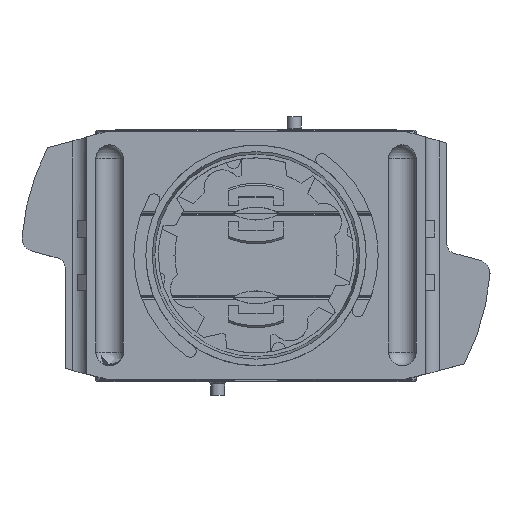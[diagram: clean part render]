
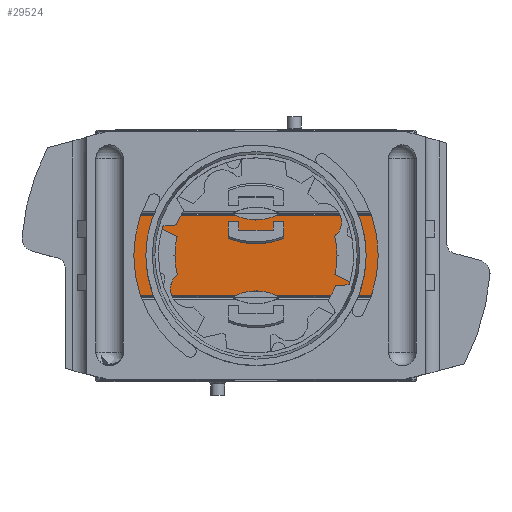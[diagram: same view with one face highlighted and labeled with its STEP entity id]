
A CAD part, top view. The second image highlights one B-rep face of the part: STEP entity #29524.
In plain terms, the highlighted planar face has unit normal (0, 0, 1).
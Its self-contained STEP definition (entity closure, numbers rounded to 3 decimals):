
#19856=DIRECTION('',(-1.,0.,0.));
#19857=VECTOR('',#19856,13.186);
#19858=CARTESIAN_POINT('',(15.4,-5.65,15.275));
#19859=LINE('',#19858,#19857);
#19869=CARTESIAN_POINT('',(15.4,-5.65,15.275));
#19918=CARTESIAN_POINT('',(-2.214,-5.65,15.275));
#19957=DIRECTION('',(-1.,0.,0.));
#19958=VECTOR('',#19957,13.186);
#19959=CARTESIAN_POINT('',(-2.214,-5.65,15.275));
#19960=LINE('',#19959,#19958);
#19984=CARTESIAN_POINT('',(-15.4,-5.65,15.275));
#20562=DIRECTION('',(0.,-1.,0.));
#20563=VECTOR('',#20562,8.7);
#20564=CARTESIAN_POINT('',(15.4,3.05,15.275));
#20565=LINE('',#20564,#20563);
#20590=DIRECTION('',(0.,-1.,0.));
#20591=VECTOR('',#20590,8.7);
#20592=CARTESIAN_POINT('',(-15.4,3.05,15.275));
#20593=LINE('',#20592,#20591);
#20597=CARTESIAN_POINT('',(0.,7.7,15.275));
#20598=DIRECTION('',(0.,0.,-1.));
#20599=DIRECTION('',(0.43,-0.903,0.));
#20600=AXIS2_PLACEMENT_3D('',#20597,#20598,#20599);
#20605=CARTESIAN_POINT('',(0.,-10.3,15.275));
#20606=DIRECTION('',(0.,0.,-1.));
#20607=DIRECTION('',(-0.43,0.903,0.));
#20608=AXIS2_PLACEMENT_3D('',#20605,#20606,#20607);
#20613=CARTESIAN_POINT('',(0.,7.85,15.275));
#20614=DIRECTION('',(0.,0.,-1.));
#20615=DIRECTION('',(0.38,-0.925,0.));
#20616=AXIS2_PLACEMENT_3D('',#20613,#20614,#20615);
#21045=CARTESIAN_POINT('',(15.4,3.05,15.275));
#21057=DIRECTION('',(1.,0.,0.));
#21058=VECTOR('',#21057,13.186);
#21059=CARTESIAN_POINT('',(2.214,3.05,15.275));
#21060=LINE('',#21059,#21058);
#21115=CARTESIAN_POINT('',(2.214,3.05,15.275));
#21132=DIRECTION('',(1.,0.,0.));
#21133=VECTOR('',#21132,13.186);
#21134=CARTESIAN_POINT('',(-15.4,3.05,15.275));
#21135=LINE('',#21134,#21133);
#21145=CARTESIAN_POINT('',(-15.4,3.05,15.275));
#26023=DIRECTION('',(0.,-1.,0.));
#26024=VECTOR('',#26023,1.808);
#26025=CARTESIAN_POINT('',(-3.,2.35,15.275));
#26026=LINE('',#26025,#26024);
#26037=DIRECTION('',(-1.,0.,0.));
#26038=VECTOR('',#26037,1.1);
#26039=CARTESIAN_POINT('',(-1.9,2.35,15.275));
#26040=LINE('',#26039,#26038);
#26058=DIRECTION('',(0.,1.,0.));
#26059=VECTOR('',#26058,0.9);
#26060=CARTESIAN_POINT('',(-1.9,1.45,15.275));
#26061=LINE('',#26060,#26059);
#26086=DIRECTION('',(-1.,0.,0.));
#26087=VECTOR('',#26086,3.8);
#26088=CARTESIAN_POINT('',(1.9,1.45,15.275));
#26089=LINE('',#26088,#26087);
#26100=DIRECTION('',(0.,-1.,0.));
#26101=VECTOR('',#26100,0.9);
#26102=CARTESIAN_POINT('',(1.9,2.35,15.275));
#26103=LINE('',#26102,#26101);
#26128=DIRECTION('',(-1.,0.,0.));
#26129=VECTOR('',#26128,1.1);
#26130=CARTESIAN_POINT('',(3.,2.35,15.275));
#26131=LINE('',#26130,#26129);
#26142=DIRECTION('',(0.,1.,0.));
#26143=VECTOR('',#26142,1.808);
#26144=CARTESIAN_POINT('',(3.,0.542,15.275));
#26145=LINE('',#26144,#26143);
#27100=VERTEX_POINT('',#19869);
#27101=CARTESIAN_POINT('',(2.214,-5.65,15.275));
#27102=VERTEX_POINT('',#27101);
#27176=VERTEX_POINT('',#19984);
#27179=VERTEX_POINT('',#19918);
#27257=VERTEX_POINT('',#21145);
#27258=CARTESIAN_POINT('',(-2.214,3.05,15.275));
#27259=VERTEX_POINT('',#27258);
#27333=VERTEX_POINT('',#21045);
#27336=VERTEX_POINT('',#21115);
#27540=CARTESIAN_POINT('',(3.,0.542,15.275));
#27541=CARTESIAN_POINT('',(3.,2.35,15.275));
#27542=VERTEX_POINT('',#27540);
#27543=VERTEX_POINT('',#27541);
#27549=CARTESIAN_POINT('',(1.9,2.35,15.275));
#27550=CARTESIAN_POINT('',(1.9,1.45,15.275));
#27551=VERTEX_POINT('',#27549);
#27552=VERTEX_POINT('',#27550);
#27565=CARTESIAN_POINT('',(-3.,2.35,15.275));
#27566=CARTESIAN_POINT('',(-3.,0.542,15.275));
#27567=VERTEX_POINT('',#27565);
#27568=VERTEX_POINT('',#27566);
#27606=CARTESIAN_POINT('',(-1.9,1.45,15.275));
#27607=CARTESIAN_POINT('',(-1.9,2.35,15.275));
#27608=VERTEX_POINT('',#27606);
#27609=VERTEX_POINT('',#27607);
#29487=CARTESIAN_POINT('',(15.4,-5.85,15.275));
#29488=DIRECTION('',(0.,0.,1.));
#29489=DIRECTION('',(0.,1.,0.));
#29490=AXIS2_PLACEMENT_3D('',#29487,#29488,#29489);
#29491=PLANE('',#29490);
#29493=ORIENTED_EDGE('',*,*,#29492,.F.);
#29495=ORIENTED_EDGE('',*,*,#29494,.T.);
#29497=ORIENTED_EDGE('',*,*,#29496,.F.);
#29499=ORIENTED_EDGE('',*,*,#29498,.T.);
#29500=ORIENTED_EDGE('',*,*,#29449,.T.);
#29501=ORIENTED_EDGE('',*,*,#28937,.T.);
#29502=ORIENTED_EDGE('',*,*,#28959,.F.);
#29503=ORIENTED_EDGE('',*,*,#28996,.T.);
#29504=EDGE_LOOP('',(#29493,#29495,#29497,#29499,#29500,#29501,#29502,#29503));
#29505=FACE_OUTER_BOUND('',#29504,.F.);
#29507=ORIENTED_EDGE('',*,*,#29506,.T.);
#29509=ORIENTED_EDGE('',*,*,#29508,.F.);
#29511=ORIENTED_EDGE('',*,*,#29510,.T.);
#29513=ORIENTED_EDGE('',*,*,#29512,.T.);
#29515=ORIENTED_EDGE('',*,*,#29514,.T.);
#29517=ORIENTED_EDGE('',*,*,#29516,.T.);
#29519=ORIENTED_EDGE('',*,*,#29518,.T.);
#29521=ORIENTED_EDGE('',*,*,#29520,.T.);
#29522=EDGE_LOOP('',(#29507,#29509,#29511,#29513,#29515,#29517,#29519,#29521));
#29523=FACE_BOUND('',#29522,.F.);
#29524=ADVANCED_FACE('',(#29505,#29523),#29491,.T.);
#20601=CIRCLE('',#20600,5.15);
#20609=CIRCLE('',#20608,5.15);
#20617=CIRCLE('',#20616,7.9);
#28937=EDGE_CURVE('',#27100,#27102,#19859,.T.);
#28959=EDGE_CURVE('',#27179,#27102,#20609,.T.);
#28996=EDGE_CURVE('',#27179,#27176,#19960,.T.);
#29449=EDGE_CURVE('',#27333,#27100,#20565,.T.);
#29492=EDGE_CURVE('',#27257,#27176,#20593,.T.);
#29494=EDGE_CURVE('',#27257,#27259,#21135,.T.);
#29496=EDGE_CURVE('',#27336,#27259,#20601,.T.);
#29498=EDGE_CURVE('',#27336,#27333,#21060,.T.);
#29506=EDGE_CURVE('',#27567,#27568,#26026,.T.);
#29508=EDGE_CURVE('',#27542,#27568,#20617,.T.);
#29510=EDGE_CURVE('',#27542,#27543,#26145,.T.);
#29512=EDGE_CURVE('',#27543,#27551,#26131,.T.);
#29514=EDGE_CURVE('',#27551,#27552,#26103,.T.);
#29516=EDGE_CURVE('',#27552,#27608,#26089,.T.);
#29518=EDGE_CURVE('',#27608,#27609,#26061,.T.);
#29520=EDGE_CURVE('',#27609,#27567,#26040,.T.);
